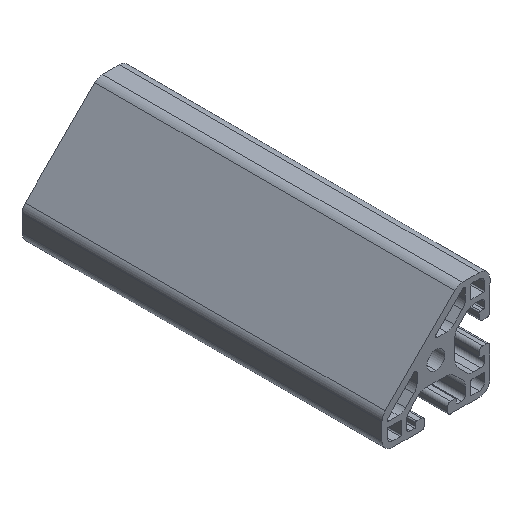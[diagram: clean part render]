
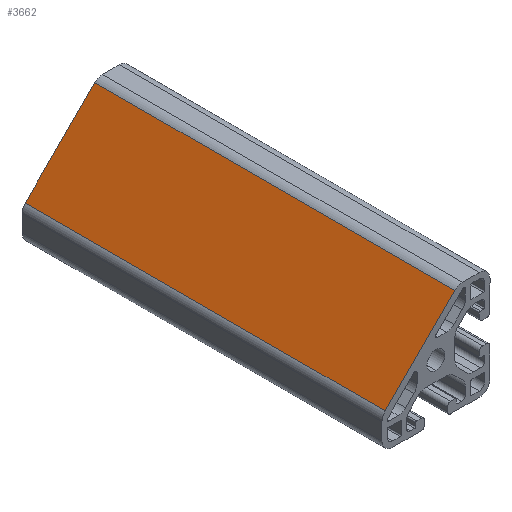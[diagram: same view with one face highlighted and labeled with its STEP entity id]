
A CAD part, isometric view. The second image highlights one B-rep face of the part: STEP entity #3662.
In plain terms, the highlighted planar face has unit normal (-0.707, 0, 0.707).
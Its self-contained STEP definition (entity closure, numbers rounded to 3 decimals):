
#70 = VECTOR ( 'NONE', #3539, 1000. ) ;
#222 = CARTESIAN_POINT ( 'NONE',  ( 5.211, -50., 14.121 ) ) ;
#253 = EDGE_CURVE ( 'NONE', #1877, #265, #2946, .T. ) ;
#265 = VERTEX_POINT ( 'NONE', #419 ) ;
#291 = ORIENTED_EDGE ( 'NONE', *, *, #1658, .F. ) ;
#381 = CARTESIAN_POINT ( 'NONE',  ( -14.121, -50., -5.211 ) ) ;
#419 = CARTESIAN_POINT ( 'NONE',  ( -14.121, -50., -5.211 ) ) ;
#586 = DIRECTION ( 'NONE',  ( 0.707, 0., 0.707 ) ) ;
#624 = DIRECTION ( 'NONE',  ( 0.707, 0., 0.707 ) ) ;
#841 = VECTOR ( 'NONE', #624, 1000. ) ;
#892 = FACE_OUTER_BOUND ( 'NONE', #3522, .T. ) ;
#1045 = EDGE_CURVE ( 'NONE', #265, #2975, #3611, .T. ) ;
#1095 = ORIENTED_EDGE ( 'NONE', *, *, #1045, .T. ) ;
#1162 = CARTESIAN_POINT ( 'NONE',  ( -14.121, 50., -5.211 ) ) ;
#1171 = CARTESIAN_POINT ( 'NONE',  ( -14.121, 50., -5.211 ) ) ;
#1191 = DIRECTION ( 'NONE',  ( -0.707, 0., -0.707 ) ) ;
#1320 = LINE ( 'NONE', #2500, #2220 ) ;
#1658 = EDGE_CURVE ( 'NONE', #1877, #2501, #1320, .T. ) ;
#1789 = CARTESIAN_POINT ( 'NONE',  ( 5.211, 50., 14.121 ) ) ;
#1790 = ORIENTED_EDGE ( 'NONE', *, *, #253, .T. ) ;
#1877 = VERTEX_POINT ( 'NONE', #1162 ) ;
#2220 = VECTOR ( 'NONE', #586, 1000. ) ;
#2295 = AXIS2_PLACEMENT_3D ( 'NONE', #2697, #2659, #1191 ) ;
#2420 = LINE ( 'NONE', #3592, #3431 ) ;
#2500 = CARTESIAN_POINT ( 'NONE',  ( -14.121, 50., -5.211 ) ) ;
#2501 = VERTEX_POINT ( 'NONE', #1789 ) ;
#2659 = DIRECTION ( 'NONE',  ( 0.707, 0., -0.707 ) ) ;
#2697 = CARTESIAN_POINT ( 'NONE',  ( -14.121, 50., -5.211 ) ) ;
#2763 = DIRECTION ( 'NONE',  ( 0., -1., 0. ) ) ;
#2819 = EDGE_CURVE ( 'NONE', #2501, #2975, #2420, .T. ) ;
#2946 = LINE ( 'NONE', #1171, #70 ) ;
#2975 = VERTEX_POINT ( 'NONE', #222 ) ;
#3252 = PLANE ( 'NONE',  #2295 ) ;
#3431 = VECTOR ( 'NONE', #2763, 1000. ) ;
#3522 = EDGE_LOOP ( 'NONE', ( #1095, #3766, #291, #1790 ) ) ;
#3539 = DIRECTION ( 'NONE',  ( 0., -1., 0. ) ) ;
#3592 = CARTESIAN_POINT ( 'NONE',  ( 5.211, 50., 14.121 ) ) ;
#3611 = LINE ( 'NONE', #381, #841 ) ;
#3662 = ADVANCED_FACE ( 'NONE', ( #892 ), #3252, .F. ) ;
#3766 = ORIENTED_EDGE ( 'NONE', *, *, #2819, .F. ) ;
